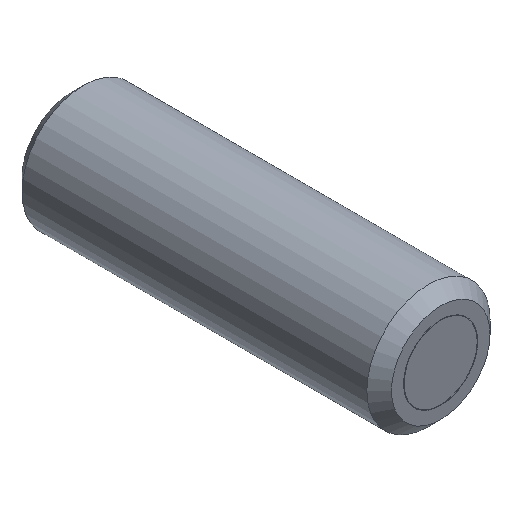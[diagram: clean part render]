
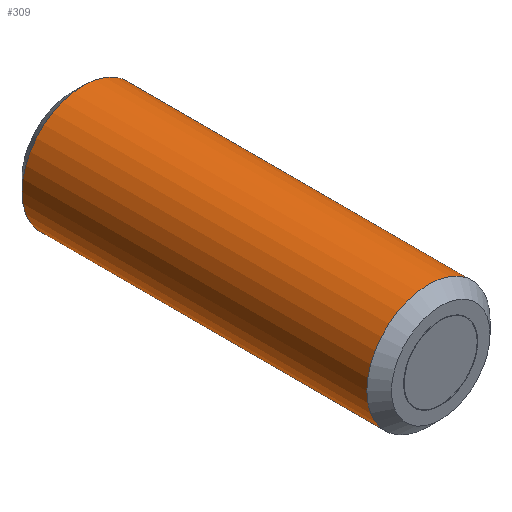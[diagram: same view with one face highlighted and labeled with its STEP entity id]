
A CAD part, isometric view. The second image highlights one B-rep face of the part: STEP entity #309.
In plain terms, the highlighted cylindrical face has radius 5 mm (diameter 10 mm), a full revolution.
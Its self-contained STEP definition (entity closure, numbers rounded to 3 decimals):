
#21=CYLINDRICAL_SURFACE('',#346,5.);
#84=ORIENTED_EDGE('',*,*,#159,.F.);
#85=ORIENTED_EDGE('',*,*,#158,.T.);
#158=EDGE_CURVE('',#196,#196,#217,.T.);
#159=EDGE_CURVE('',#197,#197,#218,.T.);
#196=VERTEX_POINT('',#494);
#197=VERTEX_POINT('',#497);
#217=CIRCLE('',#345,5.);
#218=CIRCLE('',#347,5.);
#234=EDGE_LOOP('',(#84));
#235=EDGE_LOOP('',(#85));
#264=FACE_BOUND('',#234,.T.);
#265=FACE_BOUND('',#235,.T.);
#309=ADVANCED_FACE('',(#264,#265),#21,.T.);
#345=AXIS2_PLACEMENT_3D('',#493,#392,#393);
#346=AXIS2_PLACEMENT_3D('',#495,#394,#395);
#347=AXIS2_PLACEMENT_3D('',#496,#396,#397);
#392=DIRECTION('',(0.,-1.,0.));
#393=DIRECTION('',(1.,0.,0.));
#394=DIRECTION('',(0.,-1.,0.));
#395=DIRECTION('',(1.,0.,0.));
#396=DIRECTION('',(0.,-1.,0.));
#397=DIRECTION('',(1.,0.,0.));
#493=CARTESIAN_POINT('',(0.,29.,0.));
#494=CARTESIAN_POINT('',(5.,29.,0.));
#495=CARTESIAN_POINT('',(0.,0.,0.));
#496=CARTESIAN_POINT('',(0.,1.,0.));
#497=CARTESIAN_POINT('',(5.,1.,0.));
